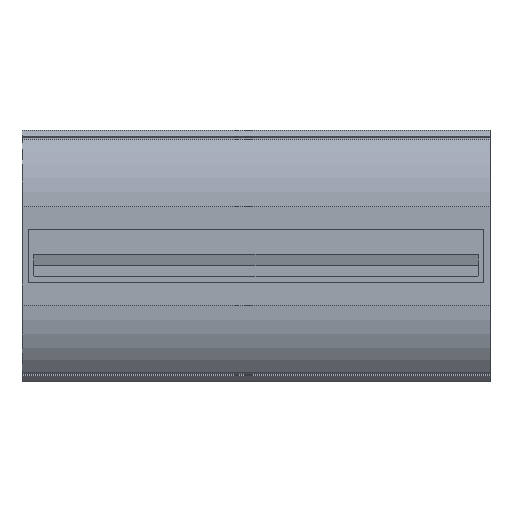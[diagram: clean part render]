
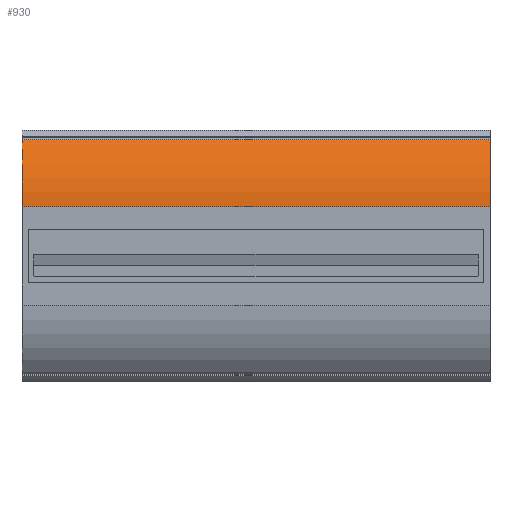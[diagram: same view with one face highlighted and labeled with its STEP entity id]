
A CAD part, top view. The second image highlights one B-rep face of the part: STEP entity #930.
In plain terms, the highlighted cylindrical face has radius 136.5 mm (diameter 273 mm), a partial arc.
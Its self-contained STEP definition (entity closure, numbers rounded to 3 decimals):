
#20=CYLINDRICAL_SURFACE('',#997,136.5);
#38=CIRCLE('',#998,136.5);
#39=CIRCLE('',#999,136.5);
#160=ORIENTED_EDGE('',*,*,#398,.F.);
#161=ORIENTED_EDGE('',*,*,#399,.F.);
#162=ORIENTED_EDGE('',*,*,#400,.T.);
#163=ORIENTED_EDGE('',*,*,#395,.T.);
#395=EDGE_CURVE('',#515,#513,#616,.T.);
#398=EDGE_CURVE('',#517,#513,#38,.T.);
#399=EDGE_CURVE('',#518,#517,#619,.T.);
#400=EDGE_CURVE('',#518,#515,#39,.T.);
#513=VERTEX_POINT('',#1446);
#515=VERTEX_POINT('',#1449);
#517=VERTEX_POINT('',#1455);
#518=VERTEX_POINT('',#1457);
#616=LINE('',#1448,#723);
#619=LINE('',#1456,#726);
#723=VECTOR('',#1157,1000.);
#726=VECTOR('',#1164,1000.);
#791=EDGE_LOOP('',(#160,#161,#162,#163));
#844=FACE_BOUND('',#791,.T.);
#930=ADVANCED_FACE('',(#844),#20,.T.);
#997=AXIS2_PLACEMENT_3D('',#1453,#1160,#1161);
#998=AXIS2_PLACEMENT_3D('',#1454,#1162,#1163);
#999=AXIS2_PLACEMENT_3D('',#1458,#1165,#1166);
#1157=DIRECTION('',(1.,0.,0.));
#1160=DIRECTION('',(1.,0.,0.));
#1161=DIRECTION('',(0.,0.,-1.));
#1162=DIRECTION('',(1.,0.,0.));
#1163=DIRECTION('',(0.,1.,0.));
#1164=DIRECTION('',(1.,0.,0.));
#1165=DIRECTION('',(1.,0.,0.));
#1166=DIRECTION('',(0.,1.,0.));
#1446=CARTESIAN_POINT('',(0.,66.,50.));
#1448=CARTESIAN_POINT('',(-629.,66.,50.));
#1449=CARTESIAN_POINT('',(-629.,66.,50.));
#1453=CARTESIAN_POINT('',(-629.,66.,-86.5));
#1454=CARTESIAN_POINT('',(0.,66.,-86.5));
#1455=CARTESIAN_POINT('',(0.,156.166,15.981));
#1456=CARTESIAN_POINT('',(-629.,156.166,15.981));
#1457=CARTESIAN_POINT('',(-629.,156.166,15.981));
#1458=CARTESIAN_POINT('',(-629.,66.,-86.5));
